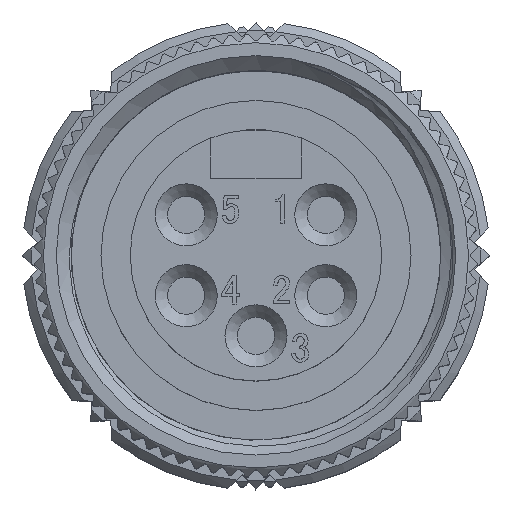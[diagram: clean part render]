
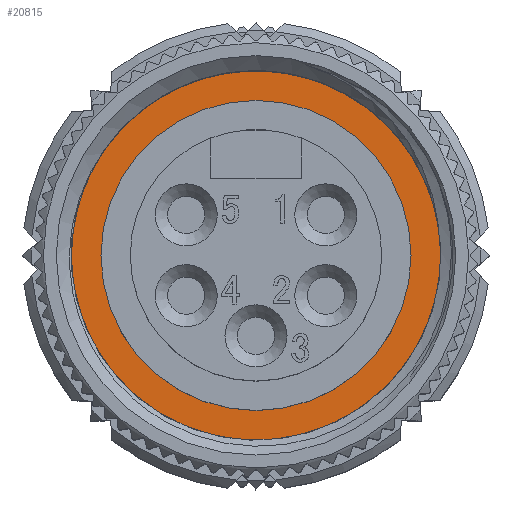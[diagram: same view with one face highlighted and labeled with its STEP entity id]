
A CAD part, top view. The second image highlights one B-rep face of the part: STEP entity #20815.
In plain terms, the highlighted planar face has unit normal (0, 0, 1).
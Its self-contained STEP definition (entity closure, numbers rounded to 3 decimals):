
#4718 = AXIS2_PLACEMENT_3D ( 'NONE', #24870, #24476, #6582 ) ;
#6123 = EDGE_CURVE ( 'NONE', #8447, #8447, #7240, .T. ) ;
#6582 = DIRECTION ( 'NONE',  ( 1., 0., 0. ) ) ;
#7240 = CIRCLE ( 'NONE', #39128, 11.35 ) ;
#8155 = CARTESIAN_POINT ( 'NONE',  ( 0., 10., -9.5 ) ) ;
#8447 = VERTEX_POINT ( 'NONE', #36564 ) ;
#8699 = AXIS2_PLACEMENT_3D ( 'NONE', #8155, #38605, #20304 ) ;
#9930 = CIRCLE ( 'NONE', #4718, 8.75 ) ;
#11616 = FACE_OUTER_BOUND ( 'NONE', #36140, .T. ) ;
#13661 = ORIENTED_EDGE ( 'NONE', *, *, #38746, .F. ) ;
#14538 = CARTESIAN_POINT ( 'NONE',  ( 0., 0., -9.5 ) ) ;
#15181 = CARTESIAN_POINT ( 'NONE',  ( 8.75, 0., -9.5 ) ) ;
#20291 = DIRECTION ( 'NONE',  ( -1., 0., 0. ) ) ;
#20304 = DIRECTION ( 'NONE',  ( 0., -1., 0. ) ) ;
#20815 = ADVANCED_FACE ( 'NONE', ( #11616, #35543 ), #29383, .F. ) ;
#22675 = VERTEX_POINT ( 'NONE', #15181 ) ;
#24476 = DIRECTION ( 'NONE',  ( 0., 0., 1. ) ) ;
#24825 = EDGE_LOOP ( 'NONE', ( #13661 ) ) ;
#24870 = CARTESIAN_POINT ( 'NONE',  ( 0., 0., -9.5 ) ) ;
#26293 = ORIENTED_EDGE ( 'NONE', *, *, #6123, .T. ) ;
#29383 = PLANE ( 'NONE',  #8699 ) ;
#32722 = DIRECTION ( 'NONE',  ( 0., 0., 1. ) ) ;
#35543 = FACE_BOUND ( 'NONE', #24825, .T. ) ;
#36140 = EDGE_LOOP ( 'NONE', ( #26293 ) ) ;
#36564 = CARTESIAN_POINT ( 'NONE',  ( -11.35, 0., -9.5 ) ) ;
#38605 = DIRECTION ( 'NONE',  ( 0., 0., -1. ) ) ;
#38746 = EDGE_CURVE ( 'NONE', #22675, #22675, #9930, .T. ) ;
#39128 = AXIS2_PLACEMENT_3D ( 'NONE', #14538, #32722, #20291 ) ;
